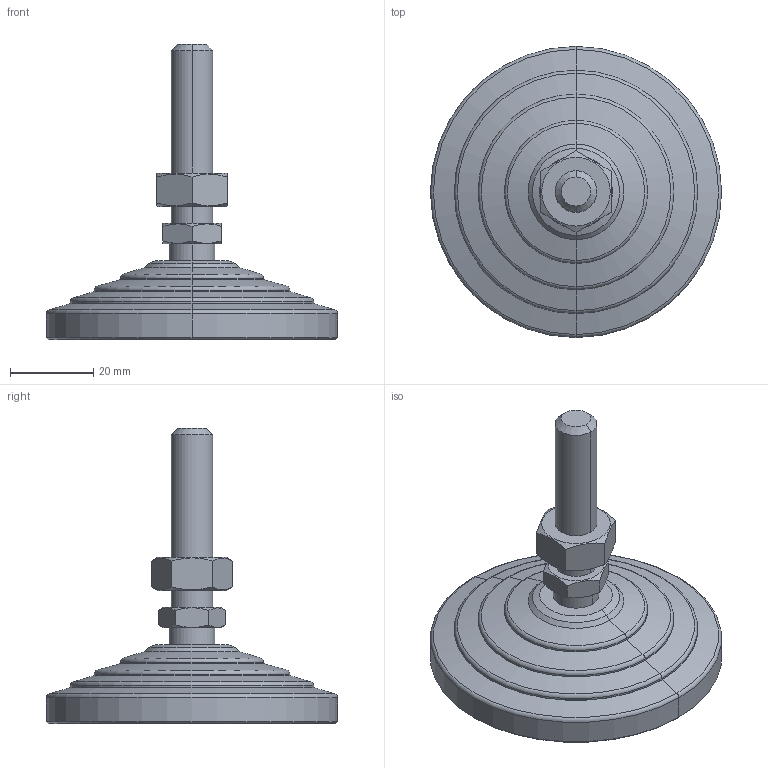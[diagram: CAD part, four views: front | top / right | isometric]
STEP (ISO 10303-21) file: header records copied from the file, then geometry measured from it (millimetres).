
FILE_DESCRIPTION (( 'STEP AP203' ), '1' );
FILE_NAME ('lve70s10a-sus.STEP', '2021-10-25T03:42:12', ( '' ), ( '' ), 'SwSTEP 2.0', 'SolidWorks 2020', '' );
FILE_SCHEMA (( 'CONFIG_CONTROL_DESIGN' ));
Length unit declared in the file: millimetre
Products named in the file (3): lve70s10a-sus_02; lve70s10a-sus; lve70s10a-sus_01
Assembly tree (2 placements, depth 2):
  lve70s10a-sus
    lve70s10a-sus_01
    lve70s10a-sus_02
Bounding box: 70 x 70 x 71 mm (x, y, z)
Volume: 52073.3 mm3; surface area: 12560.3 mm2
Topology: 2 solids, 2 shells, 66 faces, 144 edges, 86 vertices
Faces by surface type: cone 24, plane 20, cylinder 14, torus 8
Entity records: 2295 total; most frequent: CARTESIAN_POINT 555, DIRECTION 320, ORIENTED_EDGE 288, EDGE_CURVE 144, AXIS2_PLACEMENT_3D 135, VERTEX_POINT 86, EDGE_LOOP 72, ADVANCED_FACE 66
